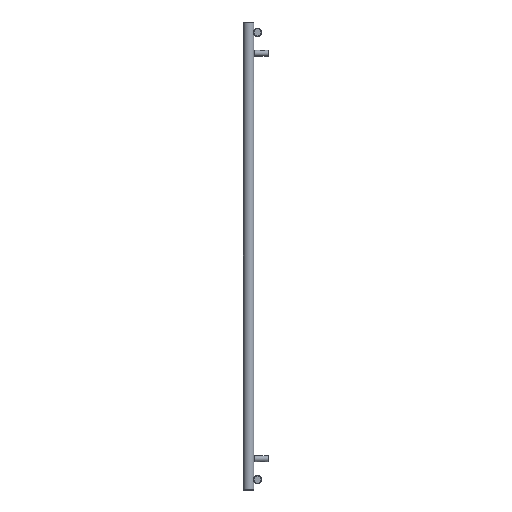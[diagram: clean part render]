
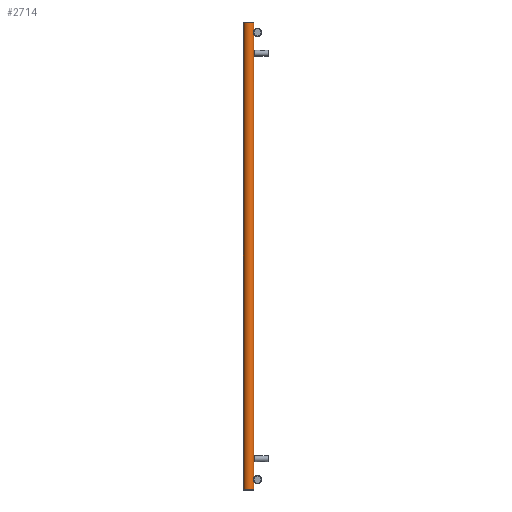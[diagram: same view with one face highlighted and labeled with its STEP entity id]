
A CAD part, left-side view. The second image highlights one B-rep face of the part: STEP entity #2714.
In plain terms, the highlighted cylindrical face has radius 20 mm (diameter 40 mm), a full revolution.
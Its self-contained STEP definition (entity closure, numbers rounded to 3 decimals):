
#194=FACE_BOUND('',#638,.T.);
#195=FACE_BOUND('',#639,.T.);
#247=LINE('',#4615,#328);
#328=VECTOR('',#3350,20.);
#409=CYLINDRICAL_SURFACE('',#2942,20.);
#448=FACE_OUTER_BOUND('',#637,.T.);
#637=EDGE_LOOP('',(#1883,#1884,#1885,#1886,#1887));
#638=EDGE_LOOP('',(#1888));
#639=EDGE_LOOP('',(#1889));
#866=B_SPLINE_CURVE_WITH_KNOTS('',3,(#4373,#4374,#4375,#4376,#4377,#4378,
#4379,#4380,#4381,#4382,#4383,#4384,#4385,#4386,#4387,#4388,#4389,#4390,
#4391,#4392),.UNSPECIFIED.,.T.,.F.,(4,1,1,1,1,1,1,1,1,1,1,1,1,1,1,1,1,4),
(-5.132,-4.765,-4.399,-3.91,
-3.788,-3.666,-3.421,-3.177,
-2.933,-2.444,-2.199,-1.955,
-1.711,-1.466,-1.1,-0.733,
-0.367,0.),.UNSPECIFIED.);
#877=B_SPLINE_CURVE_WITH_KNOTS('',3,(#4619,#4620,#4621,#4622,#4623,#4624,
#4625,#4626,#4627,#4628,#4629,#4630,#4631,#4632,#4633,#4634,#4635,#4636,
#4637,#4638,#4639,#4640,#4641,#4642,#4643,#4644,#4645,#4646,#4647,#4648,
#4649,#4650,#4651,#4652,#4653,#4654,#4655,#4656,#4657,#4658,#4659,#4660,
#4661,#4662,#4663,#4664,#4665,#4666,#4667,#4668,#4669,#4670,#4671,#4672,
#4673,#4674,#4675,#4676,#4677,#4678,#4679,#4680,#4681,#4682,#4683,#4684,
#4685,#4686,#4687,#4688),.UNSPECIFIED.,.T.,.F.,(4,3,3,3,3,3,3,3,3,3,3,3,
3,3,3,3,3,3,3,3,3,3,3,4),(-5.132,-4.765,-4.582,
-4.399,-4.338,-4.277,-4.154,
-3.91,-3.788,-3.666,-3.421,
-3.177,-2.933,-2.444,-2.199,
-2.077,-1.955,-1.711,-1.466,
-1.283,-1.1,-0.733,-0.367,
0.),.UNSPECIFIED.);
#949=CIRCLE('',#2943,20.);
#950=CIRCLE('',#2944,20.);
#951=CIRCLE('',#2945,20.);
#1171=VERTEX_POINT('',#4350);
#1185=VERTEX_POINT('',#4611);
#1186=VERTEX_POINT('',#4612);
#1187=VERTEX_POINT('',#4614);
#1188=VERTEX_POINT('',#4618);
#1453=EDGE_CURVE('',#1171,#1171,#866,.T.);
#1467=EDGE_CURVE('',#1185,#1186,#949,.T.);
#1468=EDGE_CURVE('',#1185,#1187,#247,.T.);
#1469=EDGE_CURVE('',#1187,#1187,#950,.T.);
#1470=EDGE_CURVE('',#1186,#1185,#951,.T.);
#1471=EDGE_CURVE('',#1188,#1188,#877,.T.);
#1883=ORIENTED_EDGE('',*,*,#1467,.F.);
#1884=ORIENTED_EDGE('',*,*,#1468,.T.);
#1885=ORIENTED_EDGE('',*,*,#1469,.F.);
#1886=ORIENTED_EDGE('',*,*,#1468,.F.);
#1887=ORIENTED_EDGE('',*,*,#1470,.F.);
#1888=ORIENTED_EDGE('',*,*,#1471,.F.);
#1889=ORIENTED_EDGE('',*,*,#1453,.F.);
#2714=ADVANCED_FACE('',(#448,#194,#195),#409,.T.);
#2942=AXIS2_PLACEMENT_3D('',#4610,#3346,#3347);
#2943=AXIS2_PLACEMENT_3D('',#4613,#3348,#3349);
#2944=AXIS2_PLACEMENT_3D('',#4616,#3351,#3352);
#2945=AXIS2_PLACEMENT_3D('',#4617,#3353,#3354);
#3346=DIRECTION('center_axis',(0.,0.,1.));
#3347=DIRECTION('ref_axis',(-1.,0.,0.));
#3348=DIRECTION('center_axis',(0.,0.,1.));
#3349=DIRECTION('ref_axis',(-1.,0.,0.));
#3350=DIRECTION('',(0.,0.,-1.));
#3351=DIRECTION('center_axis',(0.,0.,-1.));
#3352=DIRECTION('ref_axis',(-1.,0.,0.));
#3353=DIRECTION('center_axis',(0.,0.,1.));
#3354=DIRECTION('ref_axis',(-1.,0.,0.));
#4350=CARTESIAN_POINT('',(-550.,-20.,50.1));
#4373=CARTESIAN_POINT('Ctrl Pts',(-550.,-20.,50.1));
#4374=CARTESIAN_POINT('Ctrl Pts',(-551.611,-20.,50.1));
#4375=CARTESIAN_POINT('Ctrl Pts',(-554.831,-19.609,49.581));
#4376=CARTESIAN_POINT('Ctrl Pts',(-559.316,-17.863,46.748));
#4377=CARTESIAN_POINT('Ctrl Pts',(-561.001,-16.692,42.521));
#4378=CARTESIAN_POINT('Ctrl Pts',(-560.992,-16.709,39.163));
#4379=CARTESIAN_POINT('Ctrl Pts',(-560.668,-16.917,36.969));
#4380=CARTESIAN_POINT('Ctrl Pts',(-559.649,-17.555,34.431));
#4381=CARTESIAN_POINT('Ctrl Pts',(-557.536,-18.589,32.082));
#4382=CARTESIAN_POINT('Ctrl Pts',(-553.836,-19.82,30.088));
#4383=CARTESIAN_POINT('Ctrl Pts',(-549.419,-20.202,29.641));
#4384=CARTESIAN_POINT('Ctrl Pts',(-545.239,-19.503,30.58));
#4385=CARTESIAN_POINT('Ctrl Pts',(-542.466,-18.591,32.084));
#4386=CARTESIAN_POINT('Ctrl Pts',(-540.351,-17.553,34.428));
#4387=CARTESIAN_POINT('Ctrl Pts',(-538.927,-16.66,37.981));
#4388=CARTESIAN_POINT('Ctrl Pts',(-538.921,-16.659,42.599));
#4389=CARTESIAN_POINT('Ctrl Pts',(-541.137,-18.052,47.027));
#4390=CARTESIAN_POINT('Ctrl Pts',(-545.165,-19.6,49.585));
#4391=CARTESIAN_POINT('Ctrl Pts',(-548.389,-20.,50.1));
#4392=CARTESIAN_POINT('Ctrl Pts',(-550.,-20.,50.1));
#4610=CARTESIAN_POINT('Origin',(-550.,0.,0.));
#4611=CARTESIAN_POINT('',(-530.,0.,1798.));
#4612=CARTESIAN_POINT('',(-570.,0.,1798.));
#4613=CARTESIAN_POINT('Origin',(-550.,0.,1798.));
#4614=CARTESIAN_POINT('',(-530.,0.,2.));
#4615=CARTESIAN_POINT('',(-530.,0.,0.));
#4616=CARTESIAN_POINT('Origin',(-550.,0.,2.));
#4617=CARTESIAN_POINT('Origin',(-550.,0.,1798.));
#4618=CARTESIAN_POINT('',(-550.,-20.,1770.1));
#4619=CARTESIAN_POINT('Ctrl Pts',(-550.,-20.,1770.1));
#4620=CARTESIAN_POINT('Ctrl Pts',(-551.611,-20.,1770.1));
#4621=CARTESIAN_POINT('Ctrl Pts',(-553.224,-19.796,1769.84));
#4622=CARTESIAN_POINT('Ctrl Pts',(-554.701,-19.44,1769.287));
#4623=CARTESIAN_POINT('Ctrl Pts',(-555.439,-19.262,1769.01));
#4624=CARTESIAN_POINT('Ctrl Pts',(-556.144,-19.045,1768.66));
#4625=CARTESIAN_POINT('Ctrl Pts',(-556.794,-18.811,1768.231));
#4626=CARTESIAN_POINT('Ctrl Pts',(-557.443,-18.576,1767.803));
#4627=CARTESIAN_POINT('Ctrl Pts',(-558.038,-18.323,1767.295));
#4628=CARTESIAN_POINT('Ctrl Pts',(-558.559,-18.076,1766.713));
#4629=CARTESIAN_POINT('Ctrl Pts',(-558.733,-17.994,1766.519));
#4630=CARTESIAN_POINT('Ctrl Pts',(-558.899,-17.912,1766.317));
#4631=CARTESIAN_POINT('Ctrl Pts',(-559.056,-17.832,1766.107));
#4632=CARTESIAN_POINT('Ctrl Pts',(-559.213,-17.753,1765.897));
#4633=CARTESIAN_POINT('Ctrl Pts',(-559.361,-17.675,1765.68));
#4634=CARTESIAN_POINT('Ctrl Pts',(-559.5,-17.6,1765.455));
#4635=CARTESIAN_POINT('Ctrl Pts',(-559.778,-17.45,1765.005));
#4636=CARTESIAN_POINT('Ctrl Pts',(-560.019,-17.311,1764.528));
#4637=CARTESIAN_POINT('Ctrl Pts',(-560.221,-17.191,1764.028));
#4638=CARTESIAN_POINT('Ctrl Pts',(-560.624,-16.951,1763.028));
#4639=CARTESIAN_POINT('Ctrl Pts',(-560.87,-16.788,1761.94));
#4640=CARTESIAN_POINT('Ctrl Pts',(-560.952,-16.734,1760.833));
#4641=CARTESIAN_POINT('Ctrl Pts',(-560.993,-16.707,1760.28));
#4642=CARTESIAN_POINT('Ctrl Pts',(-560.992,-16.708,1759.722));
#4643=CARTESIAN_POINT('Ctrl Pts',(-560.952,-16.735,1759.168));
#4644=CARTESIAN_POINT('Ctrl Pts',(-560.911,-16.761,1758.615));
#4645=CARTESIAN_POINT('Ctrl Pts',(-560.829,-16.814,1758.066));
#4646=CARTESIAN_POINT('Ctrl Pts',(-560.707,-16.892,1757.531));
#4647=CARTESIAN_POINT('Ctrl Pts',(-560.463,-17.047,1756.46));
#4648=CARTESIAN_POINT('Ctrl Pts',(-560.056,-17.3,1755.446));
#4649=CARTESIAN_POINT('Ctrl Pts',(-559.5,-17.6,1754.547));
#4650=CARTESIAN_POINT('Ctrl Pts',(-558.944,-17.899,1753.648));
#4651=CARTESIAN_POINT('Ctrl Pts',(-558.239,-18.245,1752.865));
#4652=CARTESIAN_POINT('Ctrl Pts',(-557.425,-18.571,1752.224));
#4653=CARTESIAN_POINT('Ctrl Pts',(-556.61,-18.897,1751.583));
#4654=CARTESIAN_POINT('Ctrl Pts',(-555.685,-19.205,1751.085));
#4655=CARTESIAN_POINT('Ctrl Pts',(-554.701,-19.442,1750.715));
#4656=CARTESIAN_POINT('Ctrl Pts',(-552.731,-19.916,1749.976));
#4657=CARTESIAN_POINT('Ctrl Pts',(-550.523,-20.108,1749.753));
#4658=CARTESIAN_POINT('Ctrl Pts',(-548.393,-19.938,1749.992));
#4659=CARTESIAN_POINT('Ctrl Pts',(-547.329,-19.853,1750.111));
#4660=CARTESIAN_POINT('Ctrl Pts',(-546.284,-19.677,1750.345));
#4661=CARTESIAN_POINT('Ctrl Pts',(-545.299,-19.438,1750.714));
#4662=CARTESIAN_POINT('Ctrl Pts',(-544.807,-19.319,1750.898));
#4663=CARTESIAN_POINT('Ctrl Pts',(-544.33,-19.184,1751.115));
#4664=CARTESIAN_POINT('Ctrl Pts',(-543.874,-19.038,1751.367));
#4665=CARTESIAN_POINT('Ctrl Pts',(-543.418,-18.891,1751.618));
#4666=CARTESIAN_POINT('Ctrl Pts',(-542.983,-18.733,1751.904));
#4667=CARTESIAN_POINT('Ctrl Pts',(-542.576,-18.57,1752.224));
#4668=CARTESIAN_POINT('Ctrl Pts',(-541.761,-18.244,1752.865));
#4669=CARTESIAN_POINT('Ctrl Pts',(-541.056,-17.899,1753.647));
#4670=CARTESIAN_POINT('Ctrl Pts',(-540.5,-17.599,1754.545));
#4671=CARTESIAN_POINT('Ctrl Pts',(-539.943,-17.299,1755.444));
#4672=CARTESIAN_POINT('Ctrl Pts',(-539.536,-17.046,1756.459));
#4673=CARTESIAN_POINT('Ctrl Pts',(-539.292,-16.891,1757.53));
#4674=CARTESIAN_POINT('Ctrl Pts',(-539.109,-16.775,1758.332));
#4675=CARTESIAN_POINT('Ctrl Pts',(-539.018,-16.714,1759.166));
#4676=CARTESIAN_POINT('Ctrl Pts',(-539.017,-16.714,1760.));
#4677=CARTESIAN_POINT('Ctrl Pts',(-539.017,-16.714,1760.834));
#4678=CARTESIAN_POINT('Ctrl Pts',(-539.108,-16.774,1761.668));
#4679=CARTESIAN_POINT('Ctrl Pts',(-539.292,-16.891,1762.47));
#4680=CARTESIAN_POINT('Ctrl Pts',(-539.66,-17.125,1764.075));
#4681=CARTESIAN_POINT('Ctrl Pts',(-540.399,-17.587,1765.551));
#4682=CARTESIAN_POINT('Ctrl Pts',(-541.44,-18.076,1766.715));
#4683=CARTESIAN_POINT('Ctrl Pts',(-542.481,-18.566,1767.879));
#4684=CARTESIAN_POINT('Ctrl Pts',(-543.823,-19.084,1768.732));
#4685=CARTESIAN_POINT('Ctrl Pts',(-545.3,-19.442,1769.287));
#4686=CARTESIAN_POINT('Ctrl Pts',(-546.777,-19.801,1769.842));
#4687=CARTESIAN_POINT('Ctrl Pts',(-548.389,-20.,1770.1));
#4688=CARTESIAN_POINT('Ctrl Pts',(-550.,-20.,1770.1));
